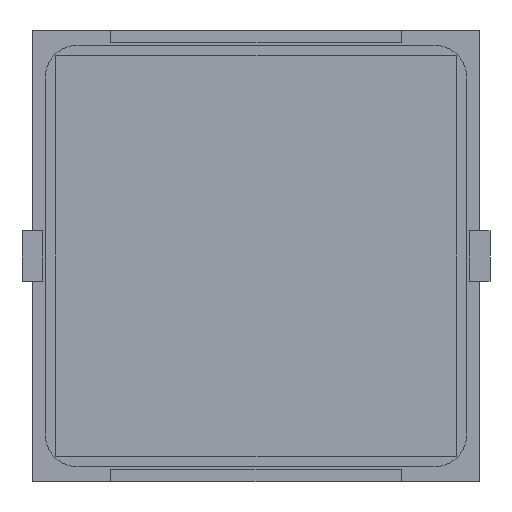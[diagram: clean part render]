
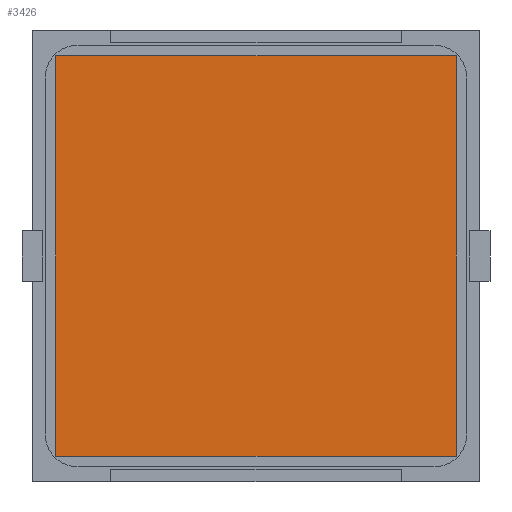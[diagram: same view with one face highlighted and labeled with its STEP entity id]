
A CAD part, front view. The second image highlights one B-rep face of the part: STEP entity #3426.
In plain terms, the highlighted planar face has unit normal (0, -1, 0).
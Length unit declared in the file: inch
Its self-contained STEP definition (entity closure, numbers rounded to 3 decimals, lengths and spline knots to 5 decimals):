
#74 = EDGE_LOOP ( 'NONE', ( #3823, #5990, #8278, #8459 ) ) ;
#115 = DIRECTION ( 'NONE',  ( 0., 0., 1. ) ) ;
#387 = CARTESIAN_POINT ( 'NONE',  ( 0.7874, -0.005, 0.7874 ) ) ;
#504 = EDGE_CURVE ( 'NONE', #2415, #9996, #4245, .T. ) ;
#717 = CARTESIAN_POINT ( 'NONE',  ( 0.7874, -0.005, -0.7874 ) ) ;
#873 = EDGE_CURVE ( 'NONE', #2062, #8594, #2552, .T. ) ;
#1386 = EDGE_CURVE ( 'NONE', #9996, #2062, #7466, .T. ) ;
#1812 = EDGE_CURVE ( 'NONE', #8594, #2415, #2137, .T. ) ;
#2062 = VERTEX_POINT ( 'NONE', #12305 ) ;
#2137 = LINE ( 'NONE', #3138, #11573 ) ;
#2154 = FACE_OUTER_BOUND ( 'NONE', #74, .T. ) ;
#2415 = VERTEX_POINT ( 'NONE', #4214 ) ;
#2552 = LINE ( 'NONE', #717, #9400 ) ;
#3138 = CARTESIAN_POINT ( 'NONE',  ( 0.7874, -0.005, -0.7874 ) ) ;
#3426 = ADVANCED_FACE ( 'NONE', ( #2154 ), #8976, .T. ) ;
#3721 = CARTESIAN_POINT ( 'NONE',  ( -0.7874, -0.005, -0.7874 ) ) ;
#3823 = ORIENTED_EDGE ( 'NONE', *, *, #1812, .T. ) ;
#4214 = CARTESIAN_POINT ( 'NONE',  ( 0.7874, -0.005, 0.7874 ) ) ;
#4245 = LINE ( 'NONE', #8061, #9665 ) ;
#4535 = DIRECTION ( 'NONE',  ( 1., 0., 0. ) ) ;
#5553 = DIRECTION ( 'NONE',  ( 0., 0., -1. ) ) ;
#5990 = ORIENTED_EDGE ( 'NONE', *, *, #504, .T. ) ;
#6039 = AXIS2_PLACEMENT_3D ( 'NONE', #387, #6096, #7838 ) ;
#6096 = DIRECTION ( 'NONE',  ( 0., -1., 0. ) ) ;
#7466 = LINE ( 'NONE', #3721, #11186 ) ;
#7838 = DIRECTION ( 'NONE',  ( 0., 0., 1. ) ) ;
#8061 = CARTESIAN_POINT ( 'NONE',  ( 0.7874, -0.005, 0.7874 ) ) ;
#8278 = ORIENTED_EDGE ( 'NONE', *, *, #1386, .T. ) ;
#8459 = ORIENTED_EDGE ( 'NONE', *, *, #873, .T. ) ;
#8594 = VERTEX_POINT ( 'NONE', #10527 ) ;
#8976 = PLANE ( 'NONE',  #6039 ) ;
#9065 = DIRECTION ( 'NONE',  ( -1., 0., 0. ) ) ;
#9400 = VECTOR ( 'NONE', #4535, 39.37008 ) ;
#9665 = VECTOR ( 'NONE', #9065, 39.37008 ) ;
#9996 = VERTEX_POINT ( 'NONE', #10192 ) ;
#10192 = CARTESIAN_POINT ( 'NONE',  ( -0.7874, -0.005, 0.7874 ) ) ;
#10527 = CARTESIAN_POINT ( 'NONE',  ( 0.7874, -0.005, -0.7874 ) ) ;
#11186 = VECTOR ( 'NONE', #5553, 39.37008 ) ;
#11573 = VECTOR ( 'NONE', #115, 39.37008 ) ;
#12305 = CARTESIAN_POINT ( 'NONE',  ( -0.7874, -0.005, -0.7874 ) ) ;
